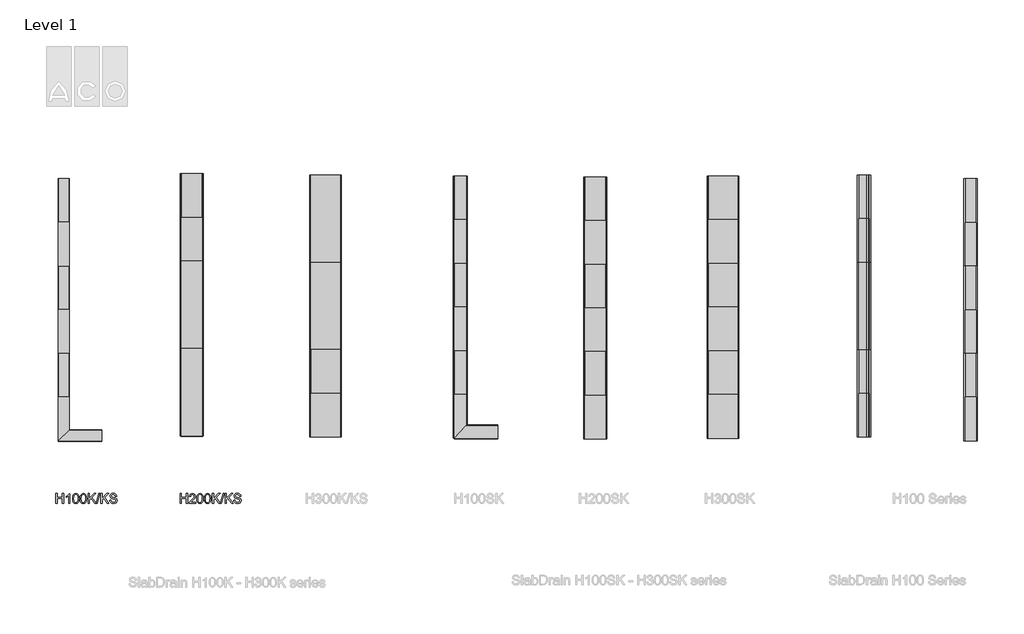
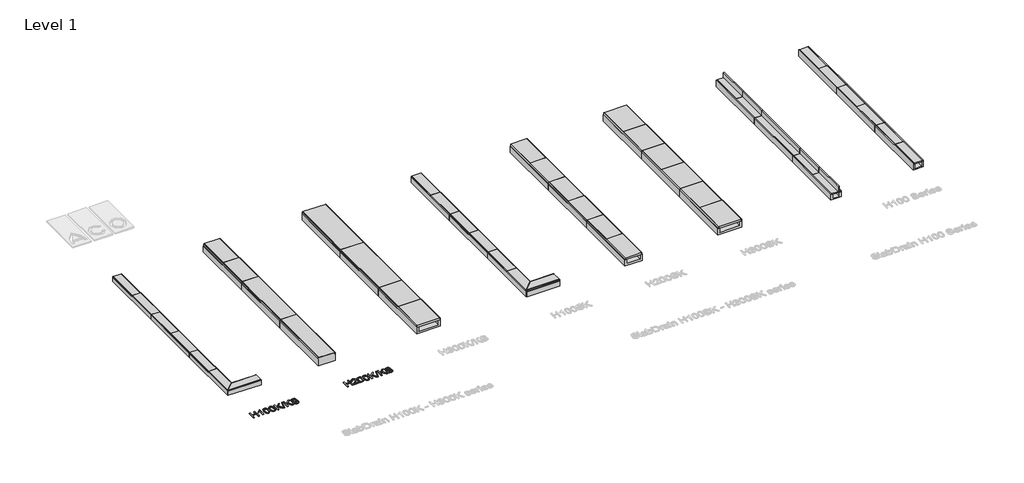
# One storey, part 1 of 4: 72 sanitary terminals, 2 proxies.
"""IFC4 building model written with IfcOpenShell, lengths in millimetres."""

from ifc_helpers import new_model, si_unit, origin, origin_with_axes, place, context, project, spatial, polyline, outline, extrude, transform, mapped, element, save
from components import sanitary_terminal_bc41e0c3, sanitary_terminal_3825ba82, sanitary_terminal_3e059fcc, sanitary_terminal_b179111e, sanitary_terminal_daf5be28, sanitary_terminal_ea681f09, sanitary_terminal_edf25b3c, sanitary_terminal_3a4a17e8, sanitary_terminal_28b78da5, sanitary_terminal_3f758c1d, h100_10_neutral_channel_3a634591, h100_10_neutral_channel_a94963c2, std_nested_5eb3211c, std_nested_73d557d2, std_nested_a88db52e, std_nested_1f435ce7, std_nested_a48f086b, std_nested_66d19c61, std_nested_1a0069e3, std_nested_d8b6aa4a, std_nested_b26bdfad, std_nested_458c9187, std_nested_009b5048, std_nested_3f48ddce, std_nested_a8e27626, std_nested_716bf231, std_nested_902dce35, std_nested_2a0174b5

model = new_model("IFC4")

# Units and contexts
model_context = context("Model", 3, world=origin())
ifc_project = project(units=[si_unit("LENGTHUNIT", "METRE", prefix="MILLI")], contexts=[model_context])

# Site, building, storey
site = spatial("IfcSite", under=ifc_project)
building = spatial("IfcBuilding", under=site)
storey = spatial("IfcBuildingStorey", under=building, Name="Level 1", Elevation=0.0)

# Proxies
placement = place(None, origin())
element("IfcBuildingElementProxy", 1, Name="100mm ACO", ObjectType="100mm ACO", at=placement, inside=storey, context=model_context, shape_type="SweptSolid", body=[
    extrude(outline(polyline([(145.7017974, -383.8015309), (131.3591949, -383.8015309), (131.3591949, -330.5290072), (73.9887848, -330.5290072), (73.9887848, -383.8015309), (59.6461822, -383.8015309), (59.6461822, -273.1585971), (73.9887848, -273.1585971), (73.9887848, -318.2353479), (131.3591949, -318.2353479), (131.3591949, -273.1585971), (145.7017974, -273.1585971), (145.7017974, -383.8015309)])), origin_with_axes(), (0.0, 0.0, 1.0), 10.0),
    extrude(outline(polyline([(217.4148101, -383.8015309), (203.0722076, -383.8015309), (203.0722076, -297.7459157), (176.4359457, -314.1374615), (176.4359457, -303.8927454), (196.6532527, -290.9267766), (209.2190372, -275.2075403), (217.4148101, -275.2075403), (217.4148101, -383.8015309)])), origin_with_axes(), (0.0, 0.0, 1.0), 10.0),
    extrude(outline(polyline([(287.0468648, -273.1585971), (303.1962991, -276.6842201), (314.7316094, -287.2610891), (321.6527955, -304.8892041), (323.9598575, -329.5685651), (321.5747596, -354.4320108), (314.4194657, -371.9720853), (302.8061195, -382.380877), (287.0468648, -385.8504742), (270.9254434, -382.3328548), (259.4101424, -371.7799969), (252.5009618, -354.1919003), (250.1979016, -329.5685651), (252.5829996, -304.7091212), (259.7382935, -287.1170228), (271.3356323, -276.6482035), (287.0468648, -273.1585971)]), holes=[polyline([(287.0788796, -375.6057581), (296.859382, -372.9125182), (303.9186317, -364.8327988), (308.1925992, -350.6302607), (309.617255, -329.5685651), (307.1201054, -302.7722296), (299.5806347, -288.2055239), (286.9188059, -283.4033132), (277.1583127, -286.1445751), (270.1590906, -294.3683609), (265.9451508, -308.6509358), (264.5405042, -329.5685651), (267.0856758, -356.1888196), (274.6251466, -370.8035474), (287.0788796, -375.6057581)])]), origin_with_axes(), (0.0, 0.0, 1.0), 10.0),
    extrude(outline(polyline([(373.1024801, -273.1585971), (389.2519144, -276.6842201), (400.7872246, -287.2610891), (407.7084107, -304.8892041), (410.0154727, -329.5685651), (407.6303748, -354.4320108), (400.4750809, -371.9720853), (388.8617347, -382.380877), (373.1024801, -385.8504742), (356.9810587, -382.3328548), (345.4657576, -371.7799969), (338.556577, -354.1919003), (336.2535168, -329.5685651), (338.6386148, -304.7091212), (345.7939087, -287.1170228), (357.3912475, -276.6482035), (373.1024801, -273.1585971)]), holes=[polyline([(373.1344948, -375.6057581), (382.9149972, -372.9125182), (389.9742469, -364.8327988), (394.2482144, -350.6302607), (395.6728702, -329.5685651), (393.1757207, -302.7722296), (385.6362499, -288.2055239), (372.9744211, -283.4033132), (363.2139279, -286.1445751), (356.2147059, -294.3683609), (352.000766, -308.6509358), (350.5961194, -329.5685651), (353.141291, -356.1888196), (360.6807618, -370.8035474), (373.1344948, -375.6057581)])]), origin_with_axes(), (0.0, 0.0, 1.0), 10.0),
    extrude(outline(polyline([(519.1216992, -383.8015309), (501.929785, -383.8015309), (461.1109943, -327.1674598), (442.7985643, -344.8716098), (442.7985643, -383.8015309), (428.4559617, -383.8015309), (428.4559617, -273.1585971), (442.7985643, -273.1585971), (442.7985643, -326.0469439), (497.415707, -273.1585971), (516.8806675, -273.1585971), (471.2276514, -317.37095), (519.1216992, -383.8015309)])), origin_with_axes(), (0.0, 0.0, 1.0), 10.0),
    extrude(outline(polyline([(561.637271, -273.1585971), (529.2063416, -385.8504742), (518.6094634, -385.8504742), (551.0403928, -273.1585971), (561.637271, -273.1585971)])), origin_with_axes(), (0.0, 0.0, 1.0), 10.0),
    extrude(outline(polyline([(664.5966678, -383.8015309), (647.4047536, -383.8015309), (606.5859629, -327.1674598), (588.2735328, -344.8716098), (588.2735328, -383.8015309), (573.9309303, -383.8015309), (573.9309303, -273.1585971), (588.2735328, -273.1585971), (588.2735328, -326.0469439), (642.8906755, -273.1585971), (662.3556361, -273.1585971), (616.70262, -317.37095), (664.5966678, -383.8015309)])), origin_with_axes(), (0.0, 0.0, 1.0), 10.0),
    extrude(outline(polyline([(739.8953311, -305.9416886), (737.6703068, -296.1011586), (732.7240298, -289.0539144), (725.0565001, -284.8159635), (714.6677177, -283.4033132), (697.3797593, -287.8053396), (692.3854602, -293.2118285), (690.7206938, -300.6272421), (695.6829782, -311.7523635), (715.7882335, -318.715569), (737.7343363, -324.7823618), (752.2850346, -334.6589084), (756.8231237, -342.4945155), (758.3358201, -352.6191763), (755.5625434, -365.7172059), (747.2427134, -376.3901191), (734.4648312, -383.4853854), (718.3173978, -385.8504742), (698.4202383, -383.2252657), (684.2537168, -375.3496402), (675.6097376, -363.2960914), (672.2802048, -348.137113), (686.6228074, -346.920553), (689.5321467, -358.9540926), (696.4033098, -367.2018894), (706.1798103, -371.9680835), (717.805162, -373.5568148), (736.7578868, -368.3224052), (742.1843848, -362.1555663), (743.9932175, -354.123869), (742.1243572, -346.0161366), (736.5177762, -340.453576), (710.7619197, -332.209781), (695.0386816, -327.4075703), (684.4297978, -320.9085785), (678.3910179, -312.4686933), (676.3780913, -301.8438022), (678.9032537, -289.6782018), (686.4787411, -279.8176626), (698.4082327, -273.286656), (713.9954082, -271.1096539), (730.106825, -273.3026634), (742.712628, -279.881692), (751.0204525, -290.4945776), (754.2379336, -304.789158), (739.8953311, -305.9416886)])), origin_with_axes(), (0.0, 0.0, 1.0), 10.0),
])
element("IfcBuildingElementProxy", 2, Name="100mm ACO", ObjectType="100mm ACO", at=placement, inside=storey, context=model_context, shape_type="SweptSolid", body=[
    extrude(outline(polyline([(1565.4118715, -383.8015309), (1551.069269, -383.8015309), (1551.069269, -330.5290072), (1493.6988588, -330.5290072), (1493.6988588, -383.8015309), (1479.3562563, -383.8015309), (1479.3562563, -273.1585971), (1493.6988588, -273.1585971), (1493.6988588, -318.2353479), (1551.069269, -318.2353479), (1551.069269, -273.1585971), (1565.4118715, -273.1585971), (1565.4118715, -383.8015309)])), origin_with_axes(), (0.0, 0.0, 1.0), 10.0),
    extrude(outline(polyline([(1655.5653731, -383.8015309), (1581.8034172, -383.8015309), (1588.3984532, -366.5455873), (1612.7616687, -342.6305781), (1632.4347251, -323.4537502), (1639.0257592, -313.465152), (1641.2227706, -303.4125243), (1639.7220798, -295.4888767), (1635.2200073, -289.0699218), (1628.428881, -284.8199653), (1620.0610289, -283.4033132), (1604.5338811, -289.0539144), (1599.8117073, -296.1011586), (1598.194963, -305.9416886), (1583.8523605, -304.4049812), (1587.3259595, -291.0148171), (1595.1215482, -281.1942963), (1606.4227506, -275.1675219), (1620.413191, -273.1585971), (1635.1919944, -275.4676601), (1646.2971066, -282.3948489), (1653.2483065, -292.5875411), (1655.5653731, -304.6931138), (1653.6284815, -315.6501578), (1647.8178066, -326.7512682), (1617.4678352, -357.1972838), (1600.2439062, -373.5568148), (1655.5653731, -373.5568148), (1655.5653731, -383.8015309)])), origin_with_axes(), (0.0, 0.0, 1.0), 10.0),
    extrude(outline(polyline([(1706.7569389, -273.1585971), (1722.9063732, -276.6842201), (1734.4416834, -287.2610891), (1741.3628695, -304.8892041), (1743.6699316, -329.5685651), (1741.2848336, -354.4320108), (1734.1295397, -371.9720853), (1722.5161936, -382.380877), (1706.7569389, -385.8504742), (1690.6355175, -382.3328548), (1679.1202165, -371.7799969), (1672.2110359, -354.1919003), (1669.9079757, -329.5685651), (1672.2930737, -304.7091212), (1679.4483676, -287.1170228), (1691.0457063, -276.6482035), (1706.7569389, -273.1585971)]), holes=[polyline([(1706.7889536, -375.6057581), (1716.569456, -372.9125182), (1723.6287057, -364.8327988), (1727.9026732, -350.6302607), (1729.327329, -329.5685651), (1726.8301795, -302.7722296), (1719.2907087, -288.2055239), (1706.6288799, -283.4033132), (1696.8683868, -286.1445751), (1689.8691647, -294.3683609), (1685.6552248, -308.6509358), (1684.2505782, -329.5685651), (1686.7957499, -356.1888196), (1694.3352206, -370.8035474), (1706.7889536, -375.6057581)])]), origin_with_axes(), (0.0, 0.0, 1.0), 10.0),
    extrude(outline(polyline([(1792.8125541, -273.1585971), (1808.9619884, -276.6842201), (1820.4972986, -287.2610891), (1827.4184848, -304.8892041), (1829.7255468, -329.5685651), (1827.3404488, -354.4320108), (1820.1851549, -371.9720853), (1808.5718088, -382.380877), (1792.8125541, -385.8504742), (1776.6911327, -382.3328548), (1765.1758317, -371.7799969), (1758.2666511, -354.1919003), (1755.9635909, -329.5685651), (1758.3486889, -304.7091212), (1765.5039828, -287.1170228), (1777.1013215, -276.6482035), (1792.8125541, -273.1585971)]), holes=[polyline([(1792.8445689, -375.6057581), (1802.6250713, -372.9125182), (1809.6843209, -364.8327988), (1813.9582884, -350.6302607), (1815.3829443, -329.5685651), (1812.8857947, -302.7722296), (1805.346324, -288.2055239), (1792.6844952, -283.4033132), (1782.924002, -286.1445751), (1775.9247799, -294.3683609), (1771.7108401, -308.6509358), (1770.3061934, -329.5685651), (1772.8513651, -356.1888196), (1780.3908358, -370.8035474), (1792.8445689, -375.6057581)])]), origin_with_axes(), (0.0, 0.0, 1.0), 10.0),
    extrude(outline(polyline([(1981.347345, -273.1585971), (1948.9164156, -385.8504742), (1938.3195374, -385.8504742), (1970.7504668, -273.1585971), (1981.347345, -273.1585971)])), origin_with_axes(), (0.0, 0.0, 1.0), 10.0),
    extrude(outline(polyline([(1938.8317732, -383.8015309), (1921.639859, -383.8015309), (1880.8210683, -327.1674598), (1862.5086383, -344.8716098), (1862.5086383, -383.8015309), (1848.1660358, -383.8015309), (1848.1660358, -273.1585971), (1862.5086383, -273.1585971), (1862.5086383, -326.0469439), (1917.125781, -273.1585971), (1936.5907416, -273.1585971), (1890.9377255, -317.37095), (1938.8317732, -383.8015309)])), origin_with_axes(), (0.0, 0.0, 1.0), 10.0),
    extrude(outline(polyline([(2084.3067418, -383.8015309), (2067.1148276, -383.8015309), (2026.2960369, -327.1674598), (2007.9836069, -344.8716098), (2007.9836069, -383.8015309), (1993.6410044, -383.8015309), (1993.6410044, -273.1585971), (2007.9836069, -273.1585971), (2007.9836069, -326.0469439), (2062.6007496, -273.1585971), (2082.0657102, -273.1585971), (2036.4126941, -317.37095), (2084.3067418, -383.8015309)])), origin_with_axes(), (0.0, 0.0, 1.0), 10.0),
    extrude(outline(polyline([(2159.6054051, -305.9416886), (2157.3803809, -296.1011586), (2152.4341039, -289.0539144), (2144.7665742, -284.8159635), (2134.3777917, -283.4033132), (2117.0898333, -287.8053396), (2112.0955342, -293.2118285), (2110.4307679, -300.6272421), (2115.3930522, -311.7523635), (2135.4983076, -318.715569), (2157.4444103, -324.7823618), (2171.9951087, -334.6589084), (2176.5331978, -342.4945155), (2178.0458941, -352.6191763), (2175.2726175, -365.7172059), (2166.9527875, -376.3901191), (2154.1749052, -383.4853854), (2138.0274719, -385.8504742), (2118.1303123, -383.2252657), (2103.9637908, -375.3496402), (2095.3198116, -363.2960914), (2091.9902789, -348.137113), (2106.3328814, -346.920553), (2109.2422207, -358.9540926), (2116.1133838, -367.2018894), (2125.8898844, -371.9680835), (2137.5152361, -373.5568148), (2156.4679608, -368.3224052), (2161.8944589, -362.1555663), (2163.7032916, -354.123869), (2161.8344313, -346.0161366), (2156.2278503, -340.453576), (2130.4719937, -332.209781), (2114.7487556, -327.4075703), (2104.1398719, -320.9085785), (2098.101092, -312.4686933), (2096.0881653, -301.8438022), (2098.6133278, -289.6782018), (2106.1888151, -279.8176626), (2118.1183068, -273.286656), (2133.7054823, -271.1096539), (2149.8168991, -273.3026634), (2162.4227021, -279.881692), (2170.7305265, -290.4945776), (2173.9480077, -304.789158), (2159.6054051, -305.9416886)])), origin_with_axes(), (0.0, 0.0, 1.0), 10.0),
])

# Sanitary terminals
sanitary_terminal_shape = sanitary_terminal_bc41e0c3(model_context)
element("IfcSanitaryTerminal", 3, ObjectType="PF_ST_Slabdrain_H300K & H300KS_channels_USA_ACO : H300KS-13 Constant Depth Channel with SS edge rail", at=placement, inside=storey, context=model_context, shape_type="MappedRepresentation", body=[
    mapped(sanitary_terminal_shape, transform((3143.8, 1979.5176554, 0.0), x_axis=(0.0, 1.0, 0.0), y_axis=(-1.0, 0.0, 0.0), z_axis=(0.0, 0.0, 1.0))),
])
sanitary_terminal_2_shape = sanitary_terminal_3825ba82(model_context)
element("IfcSanitaryTerminal", 4, ObjectType="PF_ST_Slabdrain_H300SK_channels_USA_ACO : H300SK-13 Constant Depth Channel with Ductile iron edge rail", at=placement, inside=storey, context=model_context, shape_type="MappedRepresentation", body=[
    mapped(sanitary_terminal_2_shape, transform((7690.4, 1966.8176554, 0.0), x_axis=(0.0, 1.0, 0.0), y_axis=(-1.0, 0.0, 0.0), z_axis=(0.0, 0.0, 1.0))),
])
sanitary_terminal_3_shape = sanitary_terminal_3e059fcc(model_context)
element("IfcSanitaryTerminal", 5, ObjectType="PF_ST_Slabdrain_H100K & H100KS_channels_USA_ACO : H100KS-8 Constant Depth Channel with SS edge rail", at=placement, inside=storey, context=model_context, shape_type="MappedRepresentation", body=[
    mapped(sanitary_terminal_3_shape, transform((148.1105496, 1938.6176554, 0.0), x_axis=(0.0, 1.0, 0.0), y_axis=(-1.0, 0.0, 0.0), z_axis=(0.0, 0.0, 1.0))),
])
sanitary_terminal_4_shape = sanitary_terminal_b179111e(model_context)
element("IfcSanitaryTerminal", 6, ObjectType="PF_ST_Slabdrain_H100K & H100KS_channels_USA_ACO : H100K-8 Constant Depth Channel with GS edge rail", at=placement, inside=storey, context=model_context, shape_type="MappedRepresentation", body=[
    mapped(sanitary_terminal_4_shape, transform((148.1081999, 3938.6176554, 0.0), x_axis=(0.0, 1.0, 0.0), y_axis=(-1.0, 0.0, 0.0), z_axis=(0.0, 0.0, 1.0))),
])
element("IfcSanitaryTerminal", 7, ObjectType="PF_ST_Slabdrain_H100K & H100KS_channels_USA_ACO : H100KS-8 Constant Depth Channel with SS edge rail", at=placement, inside=storey, context=model_context, shape_type="MappedRepresentation", body=[
    mapped(sanitary_terminal_4_shape, transform((148.1105496, 2938.6176554, 0.0), x_axis=(0.0, 1.0, 0.0), y_axis=(-1.0, 0.0, 0.0), z_axis=(0.0, 0.0, 1.0))),
])
sanitary_terminal_5_shape = sanitary_terminal_daf5be28(model_context)
element("IfcSanitaryTerminal", 8, ObjectType="PF_ST_Slabdrain_H100K & H100KS_channels_USA_ACO : H100KS-8 Constant Depth Channel with SS edge rail", at=placement, inside=storey, context=model_context, shape_type="MappedRepresentation", body=[
    mapped(sanitary_terminal_5_shape, transform((1689.9377089, 390.8118809, 0.0), x_axis=(1.0, 0.0, 0.0), y_axis=(0.0, 1.0, 0.0), z_axis=(0.0, 0.0, 1.0))),
])
sanitary_terminal_6_shape = sanitary_terminal_ea681f09(model_context)
element("IfcSanitaryTerminal", 9, ObjectType="PF_ST_Slabdrain_H100SK_channels_USA_ACO : H100SK-10 Constant Depth Channel with Ductile iron edge rail", at=placement, inside=storey, context=model_context, shape_type="MappedRepresentation", body=[
    mapped(sanitary_terminal_6_shape, transform((6217.8426554, 430.0575325, 0.0), x_axis=(1.0, 0.0, 0.0), y_axis=(0.0, 1.0, 0.0), z_axis=(0.0, 0.0, 1.0))),
])
sanitary_terminal_7_shape = sanitary_terminal_edf25b3c(model_context)
element("IfcSanitaryTerminal", 10, ObjectType="PF_ST_Slabdrain_H100SK_channels_USA_ACO : H100SK-10 Constant Depth Channel with Ductile iron edge rail", at=placement, inside=storey, context=model_context, shape_type="MappedRepresentation", body=[
    mapped(sanitary_terminal_7_shape, transform((4685.4, 1967.6186258, 0.0), x_axis=(0.0, 1.0, 0.0), y_axis=(-1.0, 0.0, 0.0), z_axis=(0.0, 0.0, 1.0))),
])
sanitary_terminal_8_shape = sanitary_terminal_3a4a17e8(model_context)
element("IfcSanitaryTerminal", 11, ObjectType="PF_ST_Slabdrain_H100SK_channels_USA_ACO : H100SK-10 Constant Depth Channel with Ductile iron edge rail", at=placement, inside=storey, context=model_context, shape_type="MappedRepresentation", body=[
    mapped(sanitary_terminal_8_shape, transform((4685.4, 2967.6186258, 0.0), x_axis=(0.0, 1.0, 0.0), y_axis=(-1.0, 0.0, 0.0), z_axis=(0.0, 0.0, 1.0))),
])
element("IfcSanitaryTerminal", 12, ObjectType="PF_ST_Slabdrain_H100SK_channels_USA_ACO : H100SK-10 Constant Depth Channel with Ductile iron edge rail", at=placement, inside=storey, context=model_context, shape_type="MappedRepresentation", body=[
    mapped(sanitary_terminal_8_shape, transform((4685.4, 3967.6186258, 0.0), x_axis=(0.0, 1.0, 0.0), y_axis=(-1.0, 0.0, 0.0), z_axis=(0.0, 0.0, 1.0))),
])
sanitary_terminal_9_shape = sanitary_terminal_28b78da5(model_context)
element("IfcSanitaryTerminal", 13, ObjectType="PF_ST_Slabdrain_H200K & H200KS_channels_USA_ACO : H200K-13 Constant Depth Channel with GS edge rail", at=placement, inside=storey, context=model_context, shape_type="MappedRepresentation", body=[
    mapped(sanitary_terminal_9_shape, transform((1611.2, 1992.2176554, 0.0), x_axis=(0.0, 1.0, 0.0), y_axis=(-1.0, 0.0, 0.0), z_axis=(0.0, 0.0, 1.0))),
])
element("IfcSanitaryTerminal", 14, ObjectType="PF_ST_Slabdrain_H200K & H200KS_channels_USA_ACO : H200K-13 Constant Depth Channel with GS edge rail", at=placement, inside=storey, context=model_context, shape_type="MappedRepresentation", body=[
    mapped(sanitary_terminal_9_shape, transform((1611.2, 2992.2176554, 0.0), x_axis=(0.0, 1.0, 0.0), y_axis=(-1.0, 0.0, 0.0), z_axis=(0.0, 0.0, 1.0))),
])
element("IfcSanitaryTerminal", 15, ObjectType="PF_ST_Slabdrain_H200K & H200KS_channels_USA_ACO : H200K-13 Constant Depth Channel with GS edge rail", at=placement, inside=storey, context=model_context, shape_type="MappedRepresentation", body=[
    mapped(sanitary_terminal_9_shape, transform((1611.2, 3992.2176554, 0.0), x_axis=(0.0, 1.0, 0.0), y_axis=(-1.0, 0.0, 0.0), z_axis=(0.0, 0.0, 1.0))),
])
sanitary_terminal_10_shape = sanitary_terminal_3f758c1d(model_context)
element("IfcSanitaryTerminal", 16, ObjectType="PF_ST_Slabdrain_H200SK_channels_USA_ACO : H200SK-13 Constant Depth Channel with Ductile iron edge rail", at=placement, inside=storey, context=model_context, shape_type="MappedRepresentation", body=[
    mapped(sanitary_terminal_10_shape, transform((6228.0, 1956.8046061, 0.0), x_axis=(0.0, 1.0, 0.0), y_axis=(-1.0, 0.0, 0.0), z_axis=(0.0, 0.0, 1.0))),
])
element("IfcSanitaryTerminal", 17, ObjectType="PF_ST_Slabdrain_H200SK_channels_USA_ACO : H200SK-13 Constant Depth Channel with Ductile iron edge rail", at=placement, inside=storey, context=model_context, shape_type="MappedRepresentation", body=[
    mapped(sanitary_terminal_10_shape, transform((6228.0, 2956.8046061, 0.0), x_axis=(0.0, 1.0, 0.0), y_axis=(-1.0, 0.0, 0.0), z_axis=(0.0, 0.0, 1.0))),
])
element("IfcSanitaryTerminal", 18, ObjectType="PF_ST_Slabdrain_H200SK_channels_USA_ACO : H200SK-13 Constant Depth Channel with Ductile iron edge rail", at=placement, inside=storey, context=model_context, shape_type="MappedRepresentation", body=[
    mapped(sanitary_terminal_10_shape, transform((6228.0, 3956.8046061, 0.0), x_axis=(0.0, 1.0, 0.0), y_axis=(-1.0, 0.0, 0.0), z_axis=(0.0, 0.0, 1.0))),
])
element("IfcSanitaryTerminal", 19, ObjectType="PF_ST_Slabdrain_H300K & H300KS_channels_USA_ACO : H300KS-13 Constant Depth Channel with SS edge rail", at=placement, inside=storey, context=model_context, shape_type="MappedRepresentation", body=[
    mapped(sanitary_terminal_shape, transform((3143.8, 2979.5176554, 0.0), x_axis=(0.0, 1.0, 0.0), y_axis=(-1.0, 0.0, 0.0), z_axis=(0.0, 0.0, 1.0))),
])
element("IfcSanitaryTerminal", 20, ObjectType="PF_ST_Slabdrain_H300K & H300KS_channels_USA_ACO : H300KS-13 Constant Depth Channel with SS edge rail", at=placement, inside=storey, context=model_context, shape_type="MappedRepresentation", body=[
    mapped(sanitary_terminal_shape, transform((3143.8, 3979.5176554, 0.0), x_axis=(0.0, 1.0, 0.0), y_axis=(-1.0, 0.0, 0.0), z_axis=(0.0, 0.0, 1.0))),
])
element("IfcSanitaryTerminal", 21, ObjectType="PF_ST_Slabdrain_H300SK_channels_USA_ACO : H300SK-13 Constant Depth Channel with Ductile iron edge rail", at=placement, inside=storey, context=model_context, shape_type="MappedRepresentation", body=[
    mapped(sanitary_terminal_2_shape, transform((7690.4, 2966.8176554, 0.0), x_axis=(0.0, 1.0, 0.0), y_axis=(-1.0, 0.0, 0.0), z_axis=(0.0, 0.0, 1.0))),
])
element("IfcSanitaryTerminal", 22, ObjectType="PF_ST_Slabdrain_H300SK_channels_USA_ACO : H300SK-13 Constant Depth Channel with Ductile iron edge rail", at=placement, inside=storey, context=model_context, shape_type="MappedRepresentation", body=[
    mapped(sanitary_terminal_2_shape, transform((7690.4, 3966.8176554, 0.0), x_axis=(0.0, 1.0, 0.0), y_axis=(-1.0, 0.0, 0.0), z_axis=(0.0, 0.0, 1.0))),
])
h100_10_neutral_channel_shape = h100_10_neutral_channel_3a634591(model_context)
element("IfcSanitaryTerminal", 23, ObjectType="PF_ST_Slabdrain_H100_channels_USA_ACO : H100-10 Neutral Channel", at=placement, inside=storey, context=model_context, shape_type="MappedRepresentation", body=[
    mapped(h100_10_neutral_channel_shape, transform((9300.5828786, 1978.7576054, 0.0), x_axis=(0.0, 1.0, 0.0), y_axis=(-1.0, 0.0, 0.0), z_axis=(0.0, 0.0, 1.0))),
])
element("IfcSanitaryTerminal", 24, ObjectType="PF_ST_Slabdrain_H100_channels_USA_ACO : H100-10 Neutral Channel", at=placement, inside=storey, context=model_context, shape_type="MappedRepresentation", body=[
    mapped(h100_10_neutral_channel_shape, transform((9300.5828786, 2978.7556054, 0.0), x_axis=(0.0, 1.0, 0.0), y_axis=(-1.0, 0.0, 0.0), z_axis=(0.0, 0.0, 1.0))),
])
element("IfcSanitaryTerminal", 25, ObjectType="PF_ST_Slabdrain_H100_channels_USA_ACO : H100-10 Neutral Channel", at=placement, inside=storey, context=model_context, shape_type="MappedRepresentation", body=[
    mapped(h100_10_neutral_channel_shape, transform((9300.5828786, 3978.7536054, 0.0), x_axis=(0.0, 1.0, 0.0), y_axis=(-1.0, 0.0, 0.0), z_axis=(0.0, 0.0, 1.0))),
])
h100_10_neutral_channel_2_shape = h100_10_neutral_channel_a94963c2(model_context)
element("IfcSanitaryTerminal", 26, ObjectType="PF_ST_Slabdrain_H100_channels_USA_ACO : H100-10 Neutral Channel", at=placement, inside=storey, context=model_context, shape_type="MappedRepresentation", body=[
    mapped(h100_10_neutral_channel_2_shape, transform((10520.6396601, 1936.5975109, 0.0), x_axis=(0.0, 1.0, 0.0), y_axis=(-1.0, 0.0, 0.0), z_axis=(0.0, 0.0, 1.0))),
])
element("IfcSanitaryTerminal", 27, ObjectType="PF_ST_Slabdrain_H100_channels_USA_ACO : H100-10 Neutral Channel", at=placement, inside=storey, context=model_context, shape_type="MappedRepresentation", body=[
    mapped(h100_10_neutral_channel_2_shape, transform((10520.6396601, 2936.5955109, 0.0), x_axis=(0.0, 1.0, 0.0), y_axis=(-1.0, 0.0, 0.0), z_axis=(0.0, 0.0, 1.0))),
])
element("IfcSanitaryTerminal", 28, ObjectType="PF_ST_Slabdrain_H100_channels_USA_ACO : H100-10 Neutral Channel", at=placement, inside=storey, context=model_context, shape_type="MappedRepresentation", body=[
    mapped(h100_10_neutral_channel_2_shape, transform((10520.6396601, 3936.5935109, 0.0), x_axis=(0.0, 1.0, 0.0), y_axis=(-1.0, 0.0, 0.0), z_axis=(0.0, 0.0, 1.0))),
])
std_nested_shape = std_nested_5eb3211c(model_context)
element("IfcSanitaryTerminal", 29, ObjectType="ZZZ_do not use_PF_ST_H200K_gratings_USA_ACO : std(nested)", at=placement, inside=storey, context=model_context, shape_type="MappedRepresentation", body=[
    mapped(std_nested_shape, transform((1611.2, 886.6, 83.0), x_axis=(0.0, 1.0, 0.0), y_axis=(-1.0, 0.0, 0.0), z_axis=(0.0, 0.0, 1.0))),
])
element("IfcSanitaryTerminal", 30, ObjectType="ZZZ_do not use_PF_ST_H200K_gratings_USA_ACO : std(nested)", at=placement, inside=storey, context=model_context, shape_type="MappedRepresentation", body=[
    mapped(std_nested_shape, transform((1611.2, 1886.6, 83.0), x_axis=(0.0, 1.0, 0.0), y_axis=(-1.0, 0.0, 0.0), z_axis=(0.0, 0.0, 1.0))),
])
std_nested_2_shape = std_nested_73d557d2(model_context)
element("IfcSanitaryTerminal", 31, ObjectType="ZZZ_do not use_PF_ST_H200K_gratings_USA_ACO : std(nested)", at=placement, inside=storey, context=model_context, shape_type="MappedRepresentation", body=[
    mapped(std_nested_2_shape, transform((1611.2, 2636.6, 83.0), x_axis=(0.0, 1.0, 0.0), y_axis=(-1.0, 0.0, 0.0), z_axis=(0.0, 0.0, 1.0))),
])
element("IfcSanitaryTerminal", 32, ObjectType="ZZZ_do not use_PF_ST_H200K_gratings_USA_ACO : std(nested)", at=placement, inside=storey, context=model_context, shape_type="MappedRepresentation", body=[
    mapped(std_nested_2_shape, transform((1611.2, 3136.6, 83.0), x_axis=(0.0, 1.0, 0.0), y_axis=(-1.0, 0.0, 0.0), z_axis=(0.0, 0.0, 1.0))),
])
std_nested_3_shape = std_nested_a88db52e(model_context)
element("IfcSanitaryTerminal", 33, ObjectType="ZZZ_do not use_PF_ST_H200SK_gratings_USA_ACO : std(nested)", at=placement, inside=storey, context=model_context, shape_type="MappedRepresentation", body=[
    mapped(std_nested_3_shape, transform((6228.0, 601.1869508, 0.0), x_axis=(0.0, 1.0, 0.0), y_axis=(-1.0, 0.0, 0.0), z_axis=(0.0, 0.0, 1.0))),
])
element("IfcSanitaryTerminal", 34, ObjectType="ZZZ_do not use_PF_ST_H200SK_gratings_USA_ACO : std(nested)", at=placement, inside=storey, context=model_context, shape_type="MappedRepresentation", body=[
    mapped(std_nested_3_shape, transform((6228.0, 1101.1869508, 0.0), x_axis=(0.0, 1.0, 0.0), y_axis=(-1.0, 0.0, 0.0), z_axis=(0.0, 0.0, 1.0))),
])
element("IfcSanitaryTerminal", 35, ObjectType="ZZZ_do not use_PF_ST_H200SK_gratings_USA_ACO : std(nested)", at=placement, inside=storey, context=model_context, shape_type="MappedRepresentation", body=[
    mapped(std_nested_3_shape, transform((6228.0, 1601.1869508, 0.0), x_axis=(0.0, 1.0, 0.0), y_axis=(-1.0, 0.0, 0.0), z_axis=(0.0, 0.0, 1.0))),
])
element("IfcSanitaryTerminal", 36, ObjectType="ZZZ_do not use_PF_ST_H200SK_gratings_USA_ACO : std(nested)", at=placement, inside=storey, context=model_context, shape_type="MappedRepresentation", body=[
    mapped(std_nested_3_shape, transform((6228.0, 2101.1869508, 0.0), x_axis=(0.0, 1.0, 0.0), y_axis=(-1.0, 0.0, 0.0), z_axis=(0.0, 0.0, 1.0))),
])
element("IfcSanitaryTerminal", 37, ObjectType="ZZZ_do not use_PF_ST_H200SK_gratings_USA_ACO : std(nested)", at=placement, inside=storey, context=model_context, shape_type="MappedRepresentation", body=[
    mapped(std_nested_3_shape, transform((6228.0, 2601.1869508, 0.0), x_axis=(0.0, 1.0, 0.0), y_axis=(-1.0, 0.0, 0.0), z_axis=(0.0, 0.0, 1.0))),
])
element("IfcSanitaryTerminal", 38, ObjectType="ZZZ_do not use_PF_ST_H200SK_gratings_USA_ACO : std(nested)", at=placement, inside=storey, context=model_context, shape_type="MappedRepresentation", body=[
    mapped(std_nested_3_shape, transform((6228.0, 3101.1869508, 0.0), x_axis=(0.0, 1.0, 0.0), y_axis=(-1.0, 0.0, 0.0), z_axis=(0.0, 0.0, 1.0))),
])
std_nested_4_shape = std_nested_1f435ce7(model_context)
element("IfcSanitaryTerminal", 39, ObjectType="ZZZ_do not use_PF_ST_H300K_gratings_USA_ACO : std(nested)", at=placement, inside=storey, context=model_context, shape_type="MappedRepresentation", body=[
    mapped(std_nested_4_shape, transform((3143.8, 623.9, 0.0), x_axis=(0.0, 1.0, 0.0), y_axis=(-1.0, 0.0, 0.0), z_axis=(0.0, 0.0, 1.0))),
])
element("IfcSanitaryTerminal", 40, ObjectType="ZZZ_do not use_PF_ST_H300K_gratings_USA_ACO : std(nested)", at=placement, inside=storey, context=model_context, shape_type="MappedRepresentation", body=[
    mapped(std_nested_4_shape, transform((3143.8, 1123.9, 0.0), x_axis=(0.0, 1.0, 0.0), y_axis=(-1.0, 0.0, 0.0), z_axis=(0.0, 0.0, 1.0))),
])
std_nested_5_shape = std_nested_a48f086b(model_context)
element("IfcSanitaryTerminal", 41, ObjectType="ZZZ_do not use_PF_ST_H300K_gratings_USA_ACO : std(nested)", at=placement, inside=storey, context=model_context, shape_type="MappedRepresentation", body=[
    mapped(std_nested_5_shape, transform((3143.8, 1873.9, 0.0), x_axis=(0.0, 1.0, 0.0), y_axis=(-1.0, 0.0, 0.0), z_axis=(0.0, 0.0, 1.0))),
])
element("IfcSanitaryTerminal", 42, ObjectType="ZZZ_do not use_PF_ST_H300K_gratings_USA_ACO : std(nested)", at=placement, inside=storey, context=model_context, shape_type="MappedRepresentation", body=[
    mapped(std_nested_5_shape, transform((3143.8, 2873.9, 0.0), x_axis=(0.0, 1.0, 0.0), y_axis=(-1.0, 0.0, 0.0), z_axis=(0.0, 0.0, 1.0))),
])
element("IfcSanitaryTerminal", 43, ObjectType="ZZZ_do not use_PF_ST_H300SK_gratings_USA_ACO : std(nested)", at=placement, inside=storey, context=model_context, shape_type="MappedRepresentation", body=[
    mapped(std_nested_4_shape, transform((7690.4, 611.2, 0.0), x_axis=(0.0, 1.0, 0.0), y_axis=(-1.0, 0.0, 0.0), z_axis=(0.0, 0.0, 1.0))),
])
element("IfcSanitaryTerminal", 44, ObjectType="ZZZ_do not use_PF_ST_H300SK_gratings_USA_ACO : std(nested)", at=placement, inside=storey, context=model_context, shape_type="MappedRepresentation", body=[
    mapped(std_nested_4_shape, transform((7690.4, 1111.2, 0.0), x_axis=(0.0, 1.0, 0.0), y_axis=(-1.0, 0.0, 0.0), z_axis=(0.0, 0.0, 1.0))),
])
element("IfcSanitaryTerminal", 45, ObjectType="ZZZ_do not use_PF_ST_H300SK_gratings_USA_ACO : std(nested)", at=placement, inside=storey, context=model_context, shape_type="MappedRepresentation", body=[
    mapped(std_nested_4_shape, transform((7690.4, 1611.2, 0.0), x_axis=(0.0, 1.0, 0.0), y_axis=(-1.0, 0.0, 0.0), z_axis=(0.0, 0.0, 1.0))),
])
element("IfcSanitaryTerminal", 46, ObjectType="ZZZ_do not use_PF_ST_H300SK_gratings_USA_ACO : std(nested)", at=placement, inside=storey, context=model_context, shape_type="MappedRepresentation", body=[
    mapped(std_nested_4_shape, transform((7690.4, 2111.2, 0.0), x_axis=(0.0, 1.0, 0.0), y_axis=(-1.0, 0.0, 0.0), z_axis=(0.0, 0.0, 1.0))),
])
element("IfcSanitaryTerminal", 47, ObjectType="ZZZ_do not use_PF_ST_H300SK_gratings_USA_ACO : std(nested)", at=placement, inside=storey, context=model_context, shape_type="MappedRepresentation", body=[
    mapped(std_nested_4_shape, transform((7690.4, 2611.2, 0.0), x_axis=(0.0, 1.0, 0.0), y_axis=(-1.0, 0.0, 0.0), z_axis=(0.0, 0.0, 1.0))),
])
element("IfcSanitaryTerminal", 48, ObjectType="ZZZ_do not use_PF_ST_H300SK_gratings_USA_ACO : std(nested)", at=placement, inside=storey, context=model_context, shape_type="MappedRepresentation", body=[
    mapped(std_nested_4_shape, transform((7690.4, 3111.2, 0.0), x_axis=(0.0, 1.0, 0.0), y_axis=(-1.0, 0.0, 0.0), z_axis=(0.0, 0.0, 1.0))),
])
std_nested_6_shape = std_nested_66d19c61(model_context)
element("IfcSanitaryTerminal", 49, ObjectType="ZZZ_do not use_PF_ST_SlabDrain_H100_gratings_USA_ACO : std(nested)", at=placement, inside=storey, context=model_context, shape_type="MappedRepresentation", body=[
    mapped(std_nested_6_shape, transform((9300.5828786, 623.13995, 0.0), x_axis=(0.0, 1.0, 0.0), y_axis=(-1.0, 0.0, 0.0), z_axis=(0.0, 0.0, 1.0))),
])
std_nested_7_shape = std_nested_1a0069e3(model_context)
element("IfcSanitaryTerminal", 50, ObjectType="ZZZ_do not use_PF_ST_SlabDrain_H100_gratings_USA_ACO : std(nested)", at=placement, inside=storey, context=model_context, shape_type="MappedRepresentation", body=[
    mapped(std_nested_7_shape, transform((9300.5828786, 1123.13895, 0.0), x_axis=(0.0, 1.0, 0.0), y_axis=(-1.0, 0.0, 0.0), z_axis=(0.0, 0.0, 1.0))),
])
std_nested_8_shape = std_nested_d8b6aa4a(model_context)
element("IfcSanitaryTerminal", 51, ObjectType="ZZZ_do not use_PF_ST_SlabDrain_H100_gratings_USA_ACO : std(nested)", at=placement, inside=storey, context=model_context, shape_type="MappedRepresentation", body=[
    mapped(std_nested_8_shape, transform((9300.5828786, 1873.13695, 0.0), x_axis=(0.0, 1.0, 0.0), y_axis=(-1.0, 0.0, 0.0), z_axis=(0.0, 0.0, 1.0))),
])
element("IfcSanitaryTerminal", 52, ObjectType="ZZZ_do not use_PF_ST_SlabDrain_H100_gratings_USA_ACO : std(nested)", at=placement, inside=storey, context=model_context, shape_type="MappedRepresentation", body=[
    mapped(std_nested_6_shape, transform((9300.5828786, 2623.13595, 0.0), x_axis=(0.0, 1.0, 0.0), y_axis=(-1.0, 0.0, 0.0), z_axis=(0.0, 0.0, 1.0))),
])
element("IfcSanitaryTerminal", 53, ObjectType="ZZZ_do not use_PF_ST_SlabDrain_H100_gratings_USA_ACO : std(nested)", at=placement, inside=storey, context=model_context, shape_type="MappedRepresentation", body=[
    mapped(std_nested_7_shape, transform((9300.5828786, 3123.13495, 0.0), x_axis=(0.0, 1.0, 0.0), y_axis=(-1.0, 0.0, 0.0), z_axis=(0.0, 0.0, 1.0))),
])
std_nested_9_shape = std_nested_b26bdfad(model_context)
element("IfcSanitaryTerminal", 54, ObjectType="ZZZ_do not use_PF_ST_SlabDrain_H100_gratings_USA_ACO : std(nested)", at=placement, inside=storey, context=model_context, shape_type="MappedRepresentation", body=[
    mapped(std_nested_9_shape, transform((10520.6396601, 580.9798555, 83.0), x_axis=(0.0, 1.0, 0.0), y_axis=(-1.0, 0.0, 0.0), z_axis=(0.0, 0.0, 1.0))),
])
element("IfcSanitaryTerminal", 55, ObjectType="ZZZ_do not use_PF_ST_SlabDrain_H100_gratings_USA_ACO : std(nested)", at=placement, inside=storey, context=model_context, shape_type="MappedRepresentation", body=[
    mapped(std_nested_9_shape, transform((10520.6396601, 1580.9778555, 83.0), x_axis=(0.0, 1.0, 0.0), y_axis=(-1.0, 0.0, 0.0), z_axis=(0.0, 0.0, 1.0))),
])
element("IfcSanitaryTerminal", 56, ObjectType="ZZZ_do not use_PF_ST_SlabDrain_H100_gratings_USA_ACO : std(nested)", at=placement, inside=storey, context=model_context, shape_type="MappedRepresentation", body=[
    mapped(std_nested_9_shape, transform((10520.6396601, 2580.9758555, 83.0), x_axis=(0.0, 1.0, 0.0), y_axis=(-1.0, 0.0, 0.0), z_axis=(0.0, 0.0, 1.0))),
])
std_nested_10_shape = std_nested_458c9187(model_context)
element("IfcSanitaryTerminal", 57, ObjectType="ZZZ_do not use_PF_ST_SlabDrain_H100_gratings_USA_ACO : std(nested)", at=placement, inside=storey, context=model_context, shape_type="MappedRepresentation", body=[
    mapped(std_nested_10_shape, transform((10520.6396601, 1080.9788555, 83.0), x_axis=(0.0, 1.0, 0.0), y_axis=(-1.0, 0.0, 0.0), z_axis=(0.0, 0.0, 1.0))),
])
element("IfcSanitaryTerminal", 58, ObjectType="ZZZ_do not use_PF_ST_SlabDrain_H100_gratings_USA_ACO : std(nested)", at=placement, inside=storey, context=model_context, shape_type="MappedRepresentation", body=[
    mapped(std_nested_10_shape, transform((10520.6396601, 2080.9768555, 83.0), x_axis=(0.0, 1.0, 0.0), y_axis=(-1.0, 0.0, 0.0), z_axis=(0.0, 0.0, 1.0))),
])
element("IfcSanitaryTerminal", 59, ObjectType="ZZZ_do not use_PF_ST_SlabDrain_H100_gratings_USA_ACO : std(nested)", at=placement, inside=storey, context=model_context, shape_type="MappedRepresentation", body=[
    mapped(std_nested_10_shape, transform((10520.6396601, 3080.9748555, 83.0), x_axis=(0.0, 1.0, 0.0), y_axis=(-1.0, 0.0, 0.0), z_axis=(0.0, 0.0, 1.0))),
])
std_nested_11_shape = std_nested_009b5048(model_context)
element("IfcSanitaryTerminal", 60, ObjectType="ZZZ_do not use_PF_ST_SlabDrain_H100K_gratings_USA_ACO : std(nested)", at=placement, inside=storey, context=model_context, shape_type="MappedRepresentation", body=[
    mapped(std_nested_11_shape, transform((148.1105496, 583.0, 83.0), x_axis=(0.0, 1.0, 0.0), y_axis=(-1.0, 0.0, 0.0), z_axis=(0.0, 0.0, 1.0))),
])
element("IfcSanitaryTerminal", 61, ObjectType="ZZZ_do not use_PF_ST_SlabDrain_H100K_gratings_USA_ACO : std(nested)", at=placement, inside=storey, context=model_context, shape_type="MappedRepresentation", body=[
    mapped(std_nested_9_shape, transform((148.1105496, 1083.0, 83.0), x_axis=(0.0, 1.0, 0.0), y_axis=(-1.0, 0.0, 0.0), z_axis=(0.0, 0.0, 1.0))),
])
element("IfcSanitaryTerminal", 62, ObjectType="ZZZ_do not use_PF_ST_SlabDrain_H100K_gratings_USA_ACO : std(nested)", at=placement, inside=storey, context=model_context, shape_type="MappedRepresentation", body=[
    mapped(std_nested_9_shape, transform((148.1081999, 2583.0, 83.0), x_axis=(0.0, 1.0, 0.0), y_axis=(-1.0, 0.0, 0.0), z_axis=(0.0, 0.0, 1.0))),
])
element("IfcSanitaryTerminal", 63, ObjectType="ZZZ_do not use_PF_ST_SlabDrain_H100K_gratings_USA_ACO : std(nested)", at=placement, inside=storey, context=model_context, shape_type="MappedRepresentation", body=[
    mapped(std_nested_9_shape, transform((148.1081999, 3083.0, 83.0), x_axis=(0.0, 1.0, 0.0), y_axis=(-1.0, 0.0, 0.0), z_axis=(0.0, 0.0, 1.0))),
])
element("IfcSanitaryTerminal", 64, ObjectType="ZZZ_do not use_PF_ST_SlabDrain_H100K_gratings_USA_ACO : std(nested)", at=placement, inside=storey, context=model_context, shape_type="MappedRepresentation", body=[
    mapped(std_nested_9_shape, transform((148.1105496, 1583.0, 83.0), x_axis=(0.0, 1.0, 0.0), y_axis=(-1.0, 0.0, 0.0), z_axis=(0.0, 0.0, 1.0))),
])
element("IfcSanitaryTerminal", 65, ObjectType="ZZZ_do not use_PF_ST_SlabDrain_H100K_gratings_USA_ACO : std(nested)", at=placement, inside=storey, context=model_context, shape_type="MappedRepresentation", body=[
    mapped(std_nested_9_shape, transform((148.1105496, 2083.0, 83.0), x_axis=(0.0, 1.0, 0.0), y_axis=(-1.0, 0.0, 0.0), z_axis=(0.0, 0.0, 1.0))),
])
std_nested_12_shape = std_nested_3f48ddce(model_context)
element("IfcSanitaryTerminal", 66, ObjectType="ZZZ_do not use_PF_ST_SlabDrain_H100K_gratings_USA_ACO : std(nested)", at=placement, inside=storey, context=model_context, shape_type="MappedRepresentation", body=[
    mapped(std_nested_12_shape, transform((334.2560535, 390.8118809, 83.0), x_axis=(1.0, 0.0, 0.0), y_axis=(0.0, 1.0, 0.0), z_axis=(0.0, 0.0, 1.0))),
])
std_nested_13_shape = std_nested_a8e27626(model_context)
element("IfcSanitaryTerminal", 67, ObjectType="ZZZ_do not use_PF_ST_SlabDrain_H100SK_gratings_USA_ACO : std(nested)", at=placement, inside=storey, context=model_context, shape_type="MappedRepresentation", body=[
    mapped(std_nested_13_shape, transform((4862.161, 430.0575325, 0.0), x_axis=(1.0, 0.0, 0.0), y_axis=(0.0, 1.0, 0.0), z_axis=(0.0, 0.0, 1.0))),
])
std_nested_14_shape = std_nested_716bf231(model_context)
element("IfcSanitaryTerminal", 68, ObjectType="ZZZ_do not use_PF_ST_SlabDrain_H100SK_gratings_USA_ACO : std(nested)", at=placement, inside=storey, context=model_context, shape_type="MappedRepresentation", body=[
    mapped(std_nested_14_shape, transform((4685.4, 612.0009705, 0.0), x_axis=(0.0, 1.0, 0.0), y_axis=(-1.0, 0.0, 0.0), z_axis=(0.0, 0.0, 1.0))),
])
std_nested_15_shape = std_nested_902dce35(model_context)
element("IfcSanitaryTerminal", 69, ObjectType="ZZZ_do not use_PF_ST_SlabDrain_H100SK_gratings_USA_ACO : std(nested)", at=placement, inside=storey, context=model_context, shape_type="MappedRepresentation", body=[
    mapped(std_nested_15_shape, transform((4685.4, 1112.0009705, 0.0), x_axis=(0.0, 1.0, 0.0), y_axis=(-1.0, 0.0, 0.0), z_axis=(0.0, 0.0, 1.0))),
])
element("IfcSanitaryTerminal", 70, ObjectType="ZZZ_do not use_PF_ST_SlabDrain_H100SK_gratings_USA_ACO : std(nested)", at=placement, inside=storey, context=model_context, shape_type="MappedRepresentation", body=[
    mapped(std_nested_15_shape, transform((4685.4, 1612.0009705, 0.0), x_axis=(0.0, 1.0, 0.0), y_axis=(-1.0, 0.0, 0.0), z_axis=(0.0, 0.0, 1.0))),
])
element("IfcSanitaryTerminal", 71, ObjectType="ZZZ_do not use_PF_ST_SlabDrain_H100SK_gratings_USA_ACO : std(nested)", at=placement, inside=storey, context=model_context, shape_type="MappedRepresentation", body=[
    mapped(std_nested_15_shape, transform((4685.4, 2112.0009705, 0.0), x_axis=(0.0, 1.0, 0.0), y_axis=(-1.0, 0.0, 0.0), z_axis=(0.0, 0.0, 1.0))),
])
element("IfcSanitaryTerminal", 72, ObjectType="ZZZ_do not use_PF_ST_SlabDrain_H100SK_gratings_USA_ACO : std(nested)", at=placement, inside=storey, context=model_context, shape_type="MappedRepresentation", body=[
    mapped(std_nested_15_shape, transform((4685.4, 2612.0009705, 0.0), x_axis=(0.0, 1.0, 0.0), y_axis=(-1.0, 0.0, 0.0), z_axis=(0.0, 0.0, 1.0))),
])
element("IfcSanitaryTerminal", 73, ObjectType="ZZZ_do not use_PF_ST_SlabDrain_H100SK_gratings_USA_ACO : std(nested)", at=placement, inside=storey, context=model_context, shape_type="MappedRepresentation", body=[
    mapped(std_nested_15_shape, transform((4685.4, 3112.0009705, 0.0), x_axis=(0.0, 1.0, 0.0), y_axis=(-1.0, 0.0, 0.0), z_axis=(0.0, 0.0, 1.0))),
])
std_nested_16_shape = std_nested_2a0174b5(model_context)
element("IfcSanitaryTerminal", 74, ObjectType="ZZZ_do not use_PF_ST_slabdrain_H200K_endcaps_USA_ACO : std(nested)", at=placement, inside=storey, context=model_context, shape_type="MappedRepresentation", body=[
    mapped(std_nested_16_shape, transform((1611.2, 386.6, 0.0), x_axis=(0.0, 1.0, 0.0), y_axis=(-1.0, 0.0, 0.0), z_axis=(0.0, 0.0, 1.0))),
])

save(model, "model.ifc")
